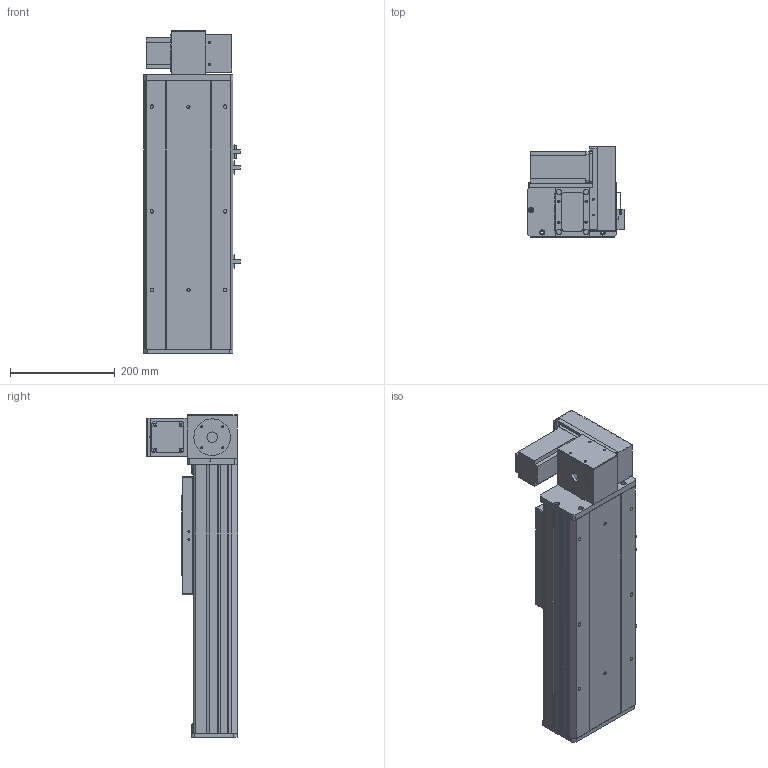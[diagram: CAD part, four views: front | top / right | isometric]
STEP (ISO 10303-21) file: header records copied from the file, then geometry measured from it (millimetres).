
FILE_DESCRIPTION (( 'STEP AP203' ), '1' );
FILE_NAME ('Y170CB-D105-S200-UR-P400W.STEP', '2020-02-20T03:37:52', ( '微软用户' ), ( '微软中国' ), 'SwSTEP 2.0', 'SolidWorks 2017', '' );
FILE_SCHEMA (( 'CONFIG_CONTROL_DESIGN' ));
Length unit declared in the file: millimetre
Products named in the file (18): 70B喘謫眊----; 70C-雄赽釱-奻-; B-源倛裔啣; Y170CB-D105-S200-UR-P400W; 0C--雄赽釱俋欶-170; 0B-萇儂楊擘啣; 70CB-詩湍--; san松下电机400不带刹车----; Y100-135俋离換覜ん--; 70CB-掛极-; Y170CB-陔俋离換覜結え---; --70CB --喘謫眊楊擘啣-; Y1埴倛裔; 70CB-耜裔啣-; 17B-耜蚾蟀諉啣----; 70C--詩湍揤踡え-; 00B-俋欶BM--163; 70CB--耜裔
Assembly tree (21 placements, depth 2):
  Y170CB-D105-S200-UR-P400W
    B-源倛裔啣
    0B-萇儂楊擘啣
    san松下电机400不带刹车----
    70CB-掛极-
    --70CB --喘謫眊楊擘啣-
    70CB-耜裔啣-  x2
    70C--詩湍揤踡え-  x2
    70CB--耜裔
    70C-雄赽釱-奻-
    0C--雄赽釱俋欶-170
    70CB-詩湍--
    Y100-135俋离換覜ん--  x3
    Y170CB-陔俋离換覜結え---
    Y1埴倛裔
    17B-耜蚾蟀諉啣----
    00B-俋欶BM--163
    70B喘謫眊----
Bounding box: 183.5 x 174 x 616 mm (x, y, z)
Volume: 3389697 mm3; surface area: 1196874 mm2
Topology: 21 solids, 21 shells, 975 faces, 2597 edges, 1722 vertices
Faces by surface type: cylinder 489, plane 462, cone 24
Entity records: 30868 total; most frequent: CARTESIAN_POINT 5616, DIRECTION 5018, ORIENTED_EDGE 4676, EDGE_CURVE 2338, AXIS2_PLACEMENT_3D 1828, VERTEX_POINT 1552, VECTOR 1362, LINE 1362
